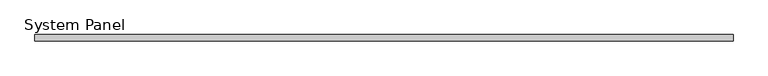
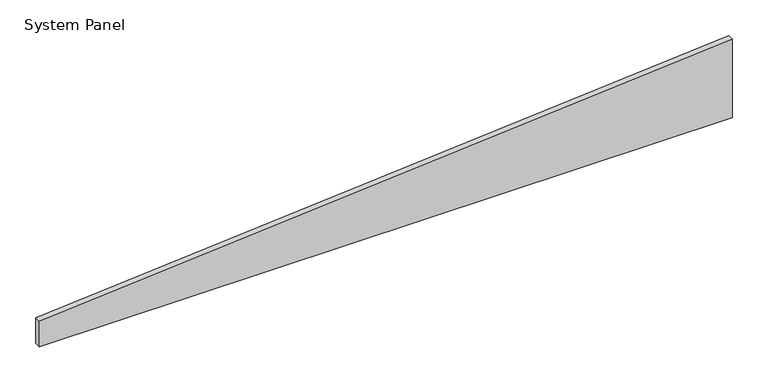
"""IFC4 building model written with IfcOpenShell, lengths in millimetres: plate geometry, System Panel : VACÍO."""

from ifc_helpers import new_model, si_unit, frame, origin, place, context, project, spatial, polyline, outline, extrude, source, transform, mapped, element, save


def system_panel_71210e79(model_context):
    return source(origin(), model_context, "Body", "SweptSolid", [
        extrude(outline(polyline([(0.0, -557.6350437), (0.0, 557.6350437), (133.5299933, 557.6350437), (43.5509446, -557.6350437), (0.0, -557.6350437)])), frame((0.0, -5.0, 0.0), z_axis=(0.0, 1.0, 0.0), x_axis=(0.0, 0.0, 1.0)), (0.0, 0.0, 1.0), 10.0),
    ])


if __name__ == "__main__":
    model = new_model("IFC4")
    model_context = context("Model", 3, world=origin())
    ifc_project = project(units=[si_unit("LENGTHUNIT", "METRE", prefix="MILLI")], contexts=[model_context])
    site = spatial("IfcSite", under=ifc_project)
    building = spatial("IfcBuilding", under=site)
    placement = place(None, origin())
    system_panel_shape = system_panel_71210e79(model_context)
    element("IfcPlate", 1, ObjectType="System Panel : VACÍO", at=placement, inside=building, context=model_context, shape_type="MappedRepresentation", body=[
        mapped(system_panel_shape, transform((0.0, 0.0, 0.0), x_axis=(1.0, 0.0, 0.0), y_axis=(0.0, 1.0, 0.0), z_axis=(0.0, 0.0, 1.0))),
    ])
    save(model, "model.ifc")
